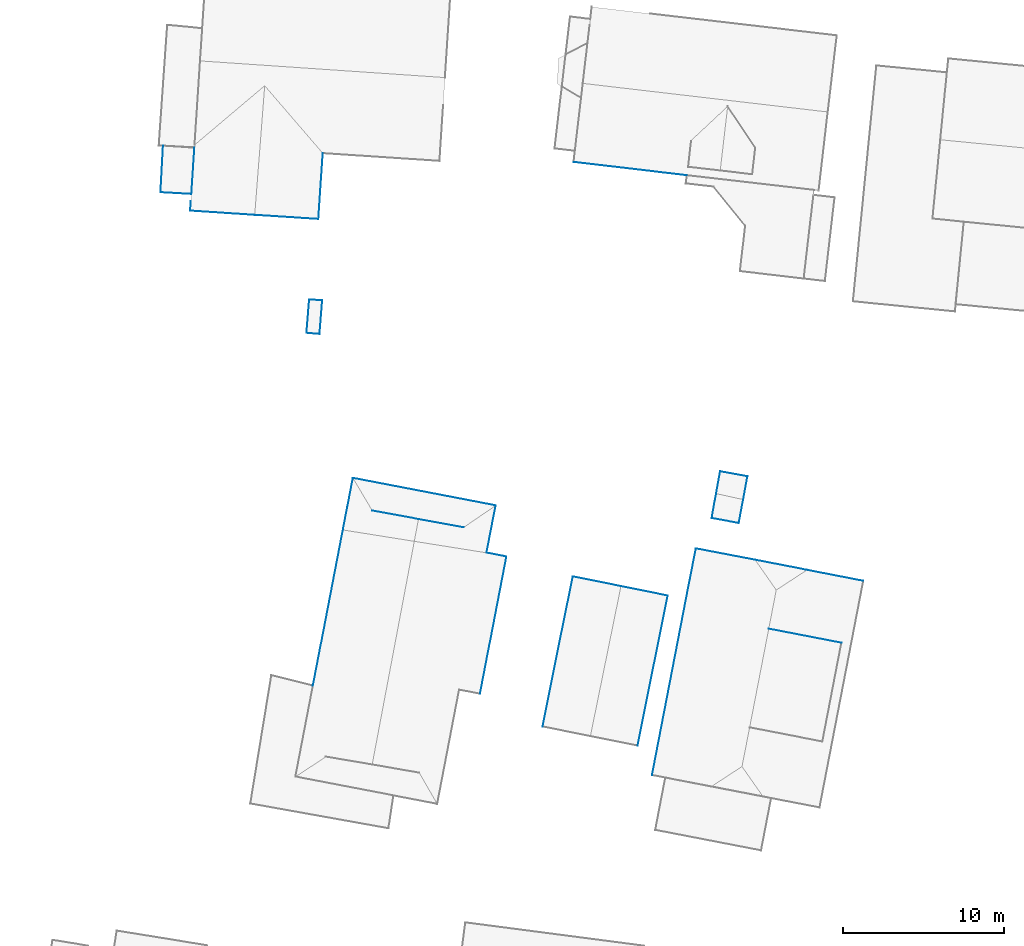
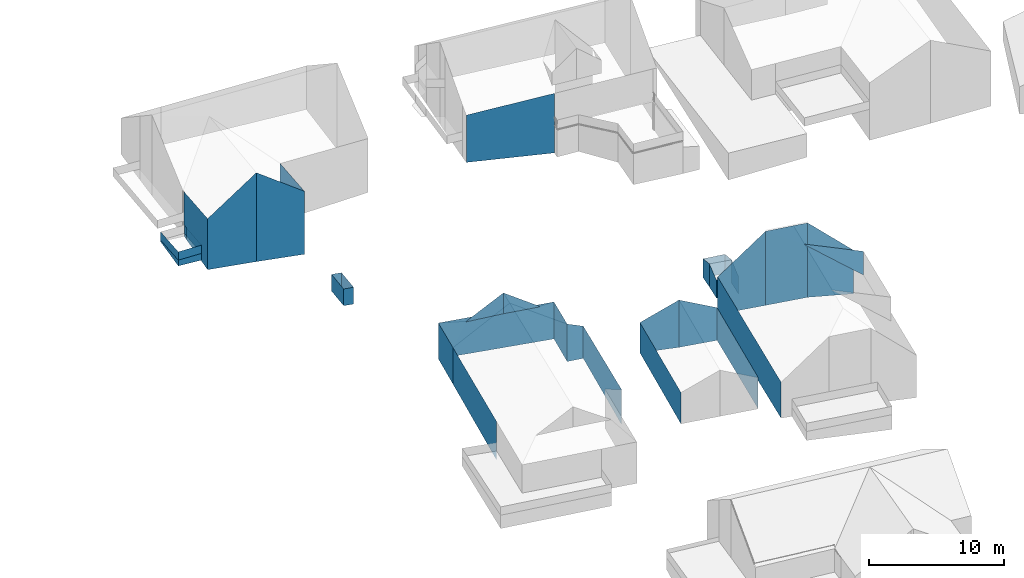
# Not in any storey, part 35 of 57: 41 walls.
"""IFC4 building model written with IfcOpenShell, lengths in metres."""

from ifc_helpers import new_model, entity, si_unit, converted_unit, origin, place, context, subcontext, project, spatial, face_set, surface_model, element, save


model = new_model("IFC4")

# Units and contexts
model_context = context("Model", 3, precision=1e-05, world=origin())
body_context = subcontext(model_context, "Body", "Model", "MODEL_VIEW")
ifc_project = project(units=[converted_unit("PLANEANGLEUNIT", "DEGREE", entity("IfcRatioMeasure", 0.0174532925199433), si_unit("PLANEANGLEUNIT", "RADIAN"), dimensions=[0, 0, 0, 0, 0, 0, 0]), si_unit("AREAUNIT", "SQUARE_METRE"), si_unit("LENGTHUNIT", "METRE")], contexts=[model_context])

# Site, building
site_placement = place(None, origin())
site = spatial("IfcSite", under=ifc_project, at=site_placement, Name="_site")
building_1_placement = place(site_placement, origin())
building_1 = spatial("IfcBuilding", under=site, at=building_1_placement, Name="_building")

# Walls
wall_1_placement = place(building_1_placement, origin())
element("IfcWall", 1, at=wall_1_placement, inside=building_1, Name="Wall", PredefinedType="NOTDEFINED", context=body_context, shape_type="SurfaceModel", body=[
    surface_model("IfcFaceBasedSurfaceModel", [(246.15, 128.743, 111.66), (245.886, 127.308, 112.12), (245.886, 127.308, 110.025), (246.15, 128.743, 109.906)], [face_set([[[0, 1, 2, 3]]])]),
])
wall_2_placement = place(building_1_placement, origin())
element("IfcWall", 2, at=wall_2_placement, inside=building_1, Name="Wall", PredefinedType="NOTDEFINED", context=body_context, shape_type="SurfaceModel", body=[
    surface_model("IfcFaceBasedSurfaceModel", [(244.456, 129.053, 111.66), (246.15, 128.743, 111.66), (246.15, 128.743, 109.906), (244.456, 129.053, 109.946)], [face_set([[[0, 1, 2, 3]]])]),
])
wall_3_placement = place(building_1_placement, origin())
element("IfcWall", 3, at=wall_3_placement, inside=building_1, Name="Wall", PredefinedType="NOTDEFINED", context=body_context, shape_type="SurfaceModel", body=[
    surface_model("IfcFaceBasedSurfaceModel", [(244.204, 127.677, 112.12), (244.456, 129.053, 111.66), (244.456, 129.053, 109.946), (244.204, 127.677, 110.04)], [face_set([[[0, 1, 2, 3]]])]),
])
wall_4_placement = place(building_1_placement, origin())
element("IfcWall", 4, at=wall_4_placement, inside=building_1, Name="Wall", PredefinedType="NOTDEFINED", context=body_context, shape_type="SurfaceModel", body=[
    surface_model("IfcFaceBasedSurfaceModel", [(243.928, 126.153, 111.66), (244.204, 127.677, 112.12), (244.204, 127.677, 110.04), (243.928, 126.153, 110.044)], [face_set([[[0, 1, 2, 3]]])]),
])
wall_5_placement = place(building_1_placement, origin())
element("IfcWall", 5, at=wall_5_placement, inside=building_1, Name="Wall", PredefinedType="NOTDEFINED", context=body_context, shape_type="SurfaceModel", body=[
    surface_model("IfcFaceBasedSurfaceModel", [(245.612, 125.843, 111.66), (243.928, 126.153, 111.66), (243.928, 126.153, 110.044), (245.612, 125.843, 110.029)], [face_set([[[0, 1, 2, 3]]])]),
])
wall_6_placement = place(building_1_placement, origin())
element("IfcWall", 6, at=wall_6_placement, inside=building_1, Name="Wall", PredefinedType="NOTDEFINED", context=body_context, shape_type="SurfaceModel", body=[
    surface_model("IfcFaceBasedSurfaceModel", [(245.886, 127.308, 112.12), (245.612, 125.843, 111.66), (245.612, 125.843, 110.029), (245.886, 127.308, 110.025)], [face_set([[[0, 1, 2, 3]]])]),
])

# Building
building_2_placement = place(site_placement, origin())
building_2 = spatial("IfcBuilding", under=site, at=building_2_placement, Name="_building")

# Walls
wall_7_placement = place(building_2_placement, origin())
element("IfcWall", 7, at=wall_7_placement, inside=building_2, Name="Wall", PredefinedType="NOTDEFINED", context=body_context, shape_type="SurfaceModel", body=[
    surface_model("IfcFaceBasedSurfaceModel", [(246.629, 123.558, 116.72), (249.846, 122.932, 116.72), (249.846, 122.932, 110.0), (246.629, 123.558, 110.022)], [face_set([[[0, 1, 2, 3]]])]),
])
wall_8_placement = place(building_2_placement, origin())
element("IfcWall", 8, at=wall_8_placement, inside=building_2, Name="Wall", PredefinedType="NOTDEFINED", context=body_context, shape_type="SurfaceModel", body=[
    surface_model("IfcFaceBasedSurfaceModel", [(240.222, 110.18, 113.45), (242.943, 124.265, 113.45), (242.943, 124.265, 110.07), (240.222, 110.18, 110.194)], [face_set([[[0, 1, 2, 3]]])]),
])
wall_9_placement = place(building_2_placement, origin())
element("IfcWall", 9, at=wall_9_placement, inside=building_2, Name="Wall", PredefinedType="NOTDEFINED", context=body_context, shape_type="SurfaceModel", body=[
    surface_model("IfcFaceBasedSurfaceModel", [(247.469, 119.276, 117.86), (251.992, 118.399, 116.15), (251.992, 118.399, 114.013), (247.469, 119.276, 117.81)], [face_set([[[0, 1, 2, 3]]])]),
])
wall_10_placement = place(building_2_placement, origin())
element("IfcWall", 10, at=wall_10_placement, inside=building_2, Name="Wall", PredefinedType="NOTDEFINED", context=body_context, shape_type="SurfaceModel", body=[
    surface_model("IfcFaceBasedSurfaceModel", [(242.943, 124.265, 113.45), (246.629, 123.558, 116.72), (246.629, 123.558, 110.022), (242.943, 124.265, 110.07)], [face_set([[[0, 1, 2, 3]]])]),
])
wall_11_placement = place(building_2_placement, origin())
element("IfcWall", 11, at=wall_11_placement, inside=building_2, Name="Wall", PredefinedType="NOTDEFINED", context=body_context, shape_type="SurfaceModel", body=[
    surface_model("IfcFaceBasedSurfaceModel", [(249.846, 122.932, 116.72), (253.353, 122.25, 113.45), (253.353, 122.25, 109.508), (249.846, 122.932, 110.0)], [face_set([[[0, 1, 2, 3]]])]),
])

# Building
building_3_placement = place(site_placement, origin())
building_3 = spatial("IfcBuilding", under=site, at=building_3_placement, Name="_building")

# Wall
wall_12_placement = place(building_3_placement, origin())
element("IfcWall", 12, at=wall_12_placement, inside=building_3, Name="Wall", PredefinedType="NOTDEFINED", context=body_context, shape_type="SurfaceModel", body=[
    surface_model("IfcFaceBasedSurfaceModel", [(242.386, 147.452, 116.15), (235.35, 148.278, 116.15), (235.35, 148.278, 111.881), (242.386, 147.452, 110.779)], [face_set([[[0, 1, 2, 3]]])]),
])

# Building
building_4_placement = place(site_placement, origin())
building_4 = spatial("IfcBuilding", under=site, at=building_4_placement, Name="_building")

# Walls
wall_13_placement = place(building_4_placement, origin())
element("IfcWall", 13, at=wall_13_placement, inside=building_4, Name="Wall", PredefinedType="NOTDEFINED", context=body_context, shape_type="SurfaceModel", body=[
    surface_model("IfcFaceBasedSurfaceModel", [(231.174, 123.76, 113.44), (229.534, 115.233, 113.44), (229.534, 115.233, 110.276), (231.174, 123.76, 110.531)], [face_set([[[0, 1, 2, 3]]])]),
])
wall_14_placement = place(building_4_placement, origin())
element("IfcWall", 14, at=wall_14_placement, inside=building_4, Name="Wall", PredefinedType="NOTDEFINED", context=body_context, shape_type="SurfaceModel", body=[
    surface_model("IfcFaceBasedSurfaceModel", [(219.152, 115.735, 113.905), (221.017, 125.419, 114.05), (221.017, 125.419, 110.757), (219.152, 115.735, 110.419)], [face_set([[[0, 1, 2, 3]]])]),
])
wall_15_placement = place(building_4_placement, origin())
element("IfcWall", 15, at=wall_15_placement, inside=building_4, Name="Wall", PredefinedType="NOTDEFINED", context=body_context, shape_type="SurfaceModel", body=[
    surface_model("IfcFaceBasedSurfaceModel", [(229.939, 123.999, 113.91), (231.174, 123.76, 113.44), (231.174, 123.76, 110.531), (229.939, 123.999, 110.529)], [face_set([[[0, 1, 2, 3]]])]),
])

# Building
building_5_placement = place(site_placement, origin())
building_5 = spatial("IfcBuilding", under=site, at=building_5_placement, Name="_building")

# Walls
wall_16_placement = place(building_5_placement, origin())
element("IfcWall", 16, at=wall_16_placement, inside=building_5, Name="Wall", PredefinedType="NOTDEFINED", context=body_context, shape_type="SurfaceModel", body=[
    surface_model("IfcFaceBasedSurfaceModel", [(225.705, 126.089, 116.94), (228.505, 125.574, 115.06), (228.505, 125.574, 115.01), (225.705, 126.089, 115.06)], [face_set([[[0, 1, 2, 3]]])]),
])
wall_17_placement = place(building_5_placement, origin())
element("IfcWall", 17, at=wall_17_placement, inside=building_5, Name="Wall", PredefinedType="NOTDEFINED", context=body_context, shape_type="SurfaceModel", body=[
    surface_model("IfcFaceBasedSurfaceModel", [(230.508, 126.938, 113.93), (229.939, 123.999, 113.91), (229.939, 123.999, 110.529), (230.508, 126.938, 110.589)], [face_set([[[0, 1, 2, 3]]])]),
])
wall_18_placement = place(building_5_placement, origin())
element("IfcWall", 18, at=wall_18_placement, inside=building_5, Name="Wall", PredefinedType="NOTDEFINED", context=body_context, shape_type="SurfaceModel", body=[
    surface_model("IfcFaceBasedSurfaceModel", [(221.017, 125.419, 114.05), (221.633, 128.646, 114.1), (221.633, 128.646, 110.866), (221.017, 125.419, 110.757)], [face_set([[[0, 1, 2, 3]]])]),
])
wall_19_placement = place(building_5_placement, origin())
element("IfcWall", 19, at=wall_19_placement, inside=building_5, Name="Wall", PredefinedType="NOTDEFINED", context=body_context, shape_type="SurfaceModel", body=[
    surface_model("IfcFaceBasedSurfaceModel", [(222.836, 126.617, 115.06), (225.705, 126.089, 116.94), (225.705, 126.089, 115.06), (222.836, 126.617, 115.01)], [face_set([[[0, 1, 2, 3]]])]),
])
wall_20_placement = place(building_5_placement, origin())
element("IfcWall", 20, at=wall_20_placement, inside=building_5, Name="Wall", PredefinedType="NOTDEFINED", context=body_context, shape_type="SurfaceModel", body=[
    surface_model("IfcFaceBasedSurfaceModel", [(221.633, 128.646, 114.1), (230.508, 126.938, 113.93), (230.508, 126.938, 110.589), (221.633, 128.646, 110.866)], [face_set([[[0, 1, 2, 3]]])]),
])

# Building
building_6_placement = place(site_placement, origin())
building_6 = spatial("IfcBuilding", under=site, at=building_6_placement, Name="_building")

# Walls
wall_21_placement = place(building_6_placement, origin())
element("IfcWall", 21, at=wall_21_placement, inside=building_6, Name="Wall", PredefinedType="NOTDEFINED", context=body_context, shape_type="SurfaceModel", body=[
    surface_model("IfcFaceBasedSurfaceModel", [(219.561, 137.59, 112.63), (218.752, 137.659, 112.71), (218.752, 137.659, 111.2), (219.561, 137.59, 111.111)], [face_set([[[0, 1, 2, 3]]])]),
])
wall_22_placement = place(building_6_placement, origin())
element("IfcWall", 22, at=wall_22_placement, inside=building_6, Name="Wall", PredefinedType="NOTDEFINED", context=body_context, shape_type="SurfaceModel", body=[
    surface_model("IfcFaceBasedSurfaceModel", [(219.73, 139.678, 112.62), (219.561, 137.59, 112.63), (219.561, 137.59, 111.111), (219.73, 139.678, 111.125)], [face_set([[[0, 1, 2, 3]]])]),
])
wall_23_placement = place(building_6_placement, origin())
element("IfcWall", 23, at=wall_23_placement, inside=building_6, Name="Wall", PredefinedType="NOTDEFINED", context=body_context, shape_type="SurfaceModel", body=[
    surface_model("IfcFaceBasedSurfaceModel", [(218.92, 139.736, 112.71), (219.73, 139.678, 112.62), (219.73, 139.678, 111.125), (218.92, 139.736, 111.201)], [face_set([[[0, 1, 2, 3]]])]),
])
wall_24_placement = place(building_6_placement, origin())
element("IfcWall", 24, at=wall_24_placement, inside=building_6, Name="Wall", PredefinedType="NOTDEFINED", context=body_context, shape_type="SurfaceModel", body=[
    surface_model("IfcFaceBasedSurfaceModel", [(218.752, 137.659, 112.71), (218.92, 139.736, 112.71), (218.92, 139.736, 111.201), (218.752, 137.659, 111.2)], [face_set([[[0, 1, 2, 3]]])]),
])

# Building
building_7_placement = place(site_placement, origin())
building_7 = spatial("IfcBuilding", under=site, at=building_7_placement, Name="_building")

# Walls
wall_25_placement = place(building_7_placement, origin())
element("IfcWall", 25, at=wall_25_placement, inside=building_7, Name="Wall", PredefinedType="NOTDEFINED", context=body_context, shape_type="SurfaceModel", body=[
    surface_model("IfcFaceBasedSurfaceModel", [(235.298, 122.523, 113.07), (238.286, 121.923, 114.42), (238.286, 121.923, 110.145), (235.298, 122.523, 110.339)], [face_set([[[0, 1, 2, 3]]])]),
])
wall_26_placement = place(building_7_placement, origin())
element("IfcWall", 26, at=wall_26_placement, inside=building_7, Name="Wall", PredefinedType="NOTDEFINED", context=body_context, shape_type="SurfaceModel", body=[
    surface_model("IfcFaceBasedSurfaceModel", [(233.419, 113.201, 113.07), (235.298, 122.523, 113.07), (235.298, 122.523, 110.339), (233.419, 113.201, 110.234)], [face_set([[[0, 1, 2, 3]]])]),
])
wall_27_placement = place(building_7_placement, origin())
element("IfcWall", 27, at=wall_27_placement, inside=building_7, Name="Wall", PredefinedType="NOTDEFINED", context=body_context, shape_type="SurfaceModel", body=[
    surface_model("IfcFaceBasedSurfaceModel", [(241.194, 121.334, 113.07), (239.324, 112.012, 113.07), (239.324, 112.012, 110.241), (241.194, 121.334, 110.118)], [face_set([[[0, 1, 2, 3]]])]),
])
wall_28_placement = place(building_7_placement, origin())
element("IfcWall", 28, at=wall_28_placement, inside=building_7, Name="Wall", PredefinedType="NOTDEFINED", context=body_context, shape_type="SurfaceModel", body=[
    surface_model("IfcFaceBasedSurfaceModel", [(238.286, 121.923, 114.42), (241.194, 121.334, 113.07), (241.194, 121.334, 110.118), (238.286, 121.923, 110.145)], [face_set([[[0, 1, 2, 3]]])]),
])

# Building
building_8_placement = place(site_placement, origin())
building_8 = spatial("IfcBuilding", under=site, at=building_8_placement, Name="_building")

# Walls
wall_29_placement = place(building_8_placement, origin())
element("IfcWall", 29, at=wall_29_placement, inside=building_8, Name="Wall", PredefinedType="NOTDEFINED", context=body_context, shape_type="SurfaceModel", body=[
    surface_model("IfcFaceBasedSurfaceModel", [(211.525, 145.253, 116.98), (211.789, 149.179, 116.922), (211.789, 149.179, 112.914), (211.525, 145.253, 112.378)], [face_set([[[0, 1, 2, 3]]])]),
])
wall_30_placement = place(building_8_placement, origin())
element("IfcWall", 30, at=wall_30_placement, inside=building_8, Name="Wall", PredefinedType="NOTDEFINED", context=body_context, shape_type="SurfaceModel", body=[
    surface_model("IfcFaceBasedSurfaceModel", [(219.488, 144.736, 116.98), (215.531, 144.989, 119.89), (215.531, 144.989, 111.861), (219.488, 144.736, 111.299)], [face_set([[[0, 1, 2, 3]]])]),
])
wall_31_placement = place(building_8_placement, origin())
element("IfcWall", 31, at=wall_31_placement, inside=building_8, Name="Wall", PredefinedType="NOTDEFINED", context=body_context, shape_type="SurfaceModel", body=[
    surface_model("IfcFaceBasedSurfaceModel", [(219.764, 148.822, 116.92), (219.488, 144.736, 116.98), (219.488, 144.736, 111.299), (219.764, 148.822, 111.717)], [face_set([[[0, 1, 2, 3]]])]),
])
wall_32_placement = place(building_8_placement, origin())
element("IfcWall", 32, at=wall_32_placement, inside=building_8, Name="Wall", PredefinedType="NOTDEFINED", context=body_context, shape_type="SurfaceModel", body=[
    surface_model("IfcFaceBasedSurfaceModel", [(215.531, 144.989, 119.89), (211.525, 145.253, 116.98), (211.525, 145.253, 112.378), (215.531, 144.989, 111.861)], [face_set([[[0, 1, 2, 3]]])]),
])
wall_33_placement = place(building_8_placement, origin())
element("IfcWall", 33, at=wall_33_placement, inside=building_8, Name="Wall", PredefinedType="NOTDEFINED", context=body_context, shape_type="SurfaceModel", body=[
    surface_model("IfcFaceBasedSurfaceModel", [(211.599, 146.292, 113.19), (209.681, 146.397, 113.19), (209.681, 146.397, 112.673), (211.599, 146.292, 112.588)], [face_set([[[0, 1, 2, 3]]])]),
])
wall_34_placement = place(building_8_placement, origin())
element("IfcWall", 34, at=wall_34_placement, inside=building_8, Name="Wall", PredefinedType="NOTDEFINED", context=body_context, shape_type="SurfaceModel", body=[
    surface_model("IfcFaceBasedSurfaceModel", [(209.681, 146.397, 113.19), (209.838, 149.285, 113.19), (209.838, 149.285, 113.05), (209.681, 146.397, 112.673)], [face_set([[[0, 1, 2, 3]]])]),
])
wall_35_placement = place(building_8_placement, origin())
element("IfcWall", 35, at=wall_35_placement, inside=building_8, Name="Wall", PredefinedType="NOTDEFINED", context=body_context, shape_type="SurfaceModel", body=[
    surface_model("IfcFaceBasedSurfaceModel", [(211.787, 149.159, 113.19), (211.599, 146.292, 113.19), (211.599, 146.292, 112.588), (211.787, 149.159, 112.911)], [face_set([[[0, 1, 2, 3]]])]),
])
wall_36_placement = place(building_8_placement, origin())
element("IfcWall", 36, at=wall_36_placement, inside=building_8, Name="Wall", PredefinedType="NOTDEFINED", context=body_context, shape_type="SurfaceModel", body=[
    surface_model("IfcFaceBasedSurfaceModel", [(209.681, 146.397, 113.19), (209.838, 149.285, 113.19), (209.838, 149.285, 113.94), (209.681, 146.397, 113.94)], [face_set([[[0, 1, 2, 3]]])]),
])
wall_37_placement = place(building_8_placement, origin())
element("IfcWall", 37, at=wall_37_placement, inside=building_8, Name="Wall", PredefinedType="NOTDEFINED", context=body_context, shape_type="SurfaceModel", body=[
    surface_model("IfcFaceBasedSurfaceModel", [(211.599, 146.292, 113.19), (209.681, 146.397, 113.19), (209.681, 146.397, 113.94), (211.599, 146.292, 113.94)], [face_set([[[0, 1, 2, 3]]])]),
])
wall_38_placement = place(building_8_placement, origin())
element("IfcWall", 38, at=wall_38_placement, inside=building_8, Name="Wall", PredefinedType="NOTDEFINED", context=body_context, shape_type="SurfaceModel", body=[
    surface_model("IfcFaceBasedSurfaceModel", [(211.787, 149.159, 113.19), (211.599, 146.292, 113.19), (211.599, 146.292, 113.94), (211.787, 149.159, 113.94)], [face_set([[[0, 1, 2, 3]]])]),
])
wall_39_placement = place(building_8_placement, origin())
element("IfcWall", 39, at=wall_39_placement, inside=building_8, Name="Wall", PredefinedType="NOTDEFINED", context=body_context, shape_type="SurfaceModel", body=[
    surface_model("IfcFaceBasedSurfaceModel", [(209.681, 146.397, 113.19), (209.838, 149.285, 113.19), (209.838, 149.285, 113.94), (209.681, 146.397, 113.94)], [face_set([[[0, 1, 2, 3]]])]),
])
wall_40_placement = place(building_8_placement, origin())
element("IfcWall", 40, at=wall_40_placement, inside=building_8, Name="Wall", PredefinedType="NOTDEFINED", context=body_context, shape_type="SurfaceModel", body=[
    surface_model("IfcFaceBasedSurfaceModel", [(211.599, 146.292, 113.19), (209.681, 146.397, 113.19), (209.681, 146.397, 113.94), (211.599, 146.292, 113.94)], [face_set([[[0, 1, 2, 3]]])]),
])
wall_41_placement = place(building_8_placement, origin())
element("IfcWall", 41, at=wall_41_placement, inside=building_8, Name="Wall", PredefinedType="NOTDEFINED", context=body_context, shape_type="SurfaceModel", body=[
    surface_model("IfcFaceBasedSurfaceModel", [(211.787, 149.159, 113.19), (211.599, 146.292, 113.19), (211.599, 146.292, 113.94), (211.787, 149.159, 113.94)], [face_set([[[0, 1, 2, 3]]])]),
])

save(model, "model.ifc")
